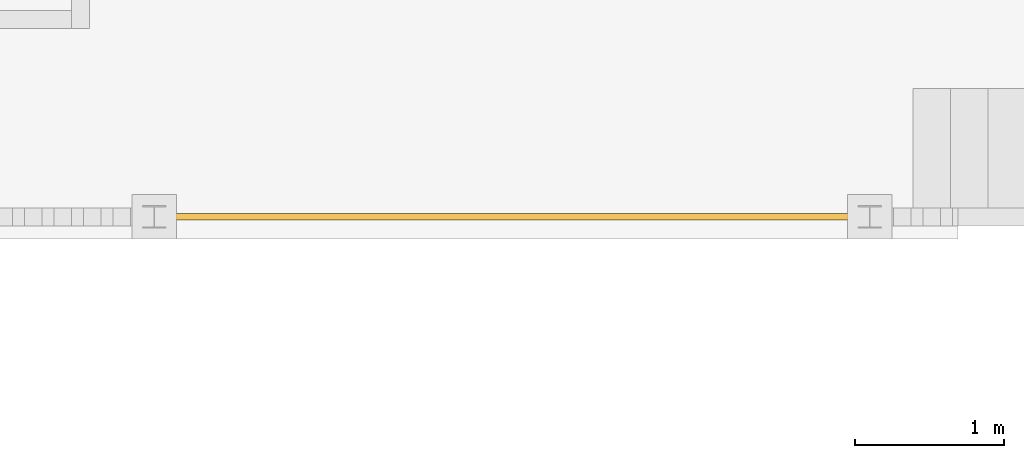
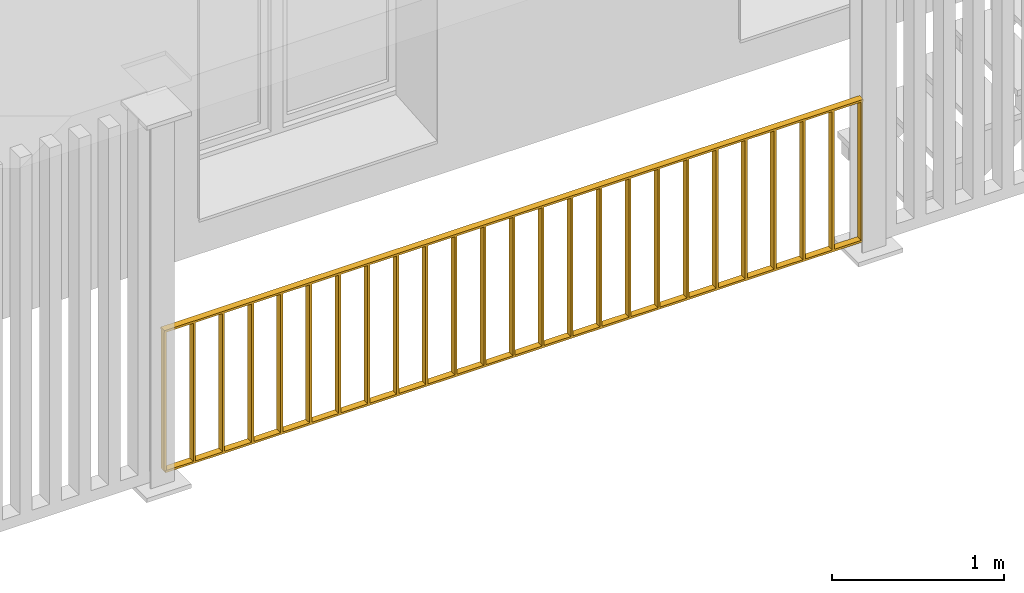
# One storey, part 24 of 34: 1 railing.
"""IFC4 building model written with IfcOpenShell, lengths in millimetres."""

from ifc_helpers import new_model, entity, si_unit, converted_unit, derived_unit, direction, frame, origin_with_axes, place, context, subcontext, project, spatial, polygons, material, constituent, constituent_set, type_object, element, save


model = new_model("IFC4")

# Units and contexts
model_context = context("Model", 3, precision=0.01, world=origin_with_axes(), true_north=direction((0.0, 1.0)))
body_context = subcontext(model_context, "Body", "Model", "MODEL_VIEW")
ifc_project = project(units=[si_unit("LENGTHUNIT", "METRE", prefix="MILLI"), si_unit("AREAUNIT", "SQUARE_METRE"), si_unit("VOLUMEUNIT", "CUBIC_METRE"), converted_unit("PLANEANGLEUNIT", "DEGREE", entity("IfcPlaneAngleMeasure", 0.0174532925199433), si_unit("PLANEANGLEUNIT", "RADIAN"), dimensions=[0, 0, 0, 0, 0, 0, 0]), converted_unit("TIMEUNIT", "Year", entity("IfcTimeMeasure", 31557600.0), si_unit("TIMEUNIT", "SECOND"), dimensions=[0, 0, 1, 0, 0, 0, 0]), si_unit("MASSUNIT", "GRAM", prefix="KILO"), si_unit("THERMODYNAMICTEMPERATUREUNIT", "DEGREE_CELSIUS"), si_unit("LUMINOUSINTENSITYUNIT", "LUMEN"), si_unit("ENERGYUNIT", "JOULE", prefix="MEGA"), derived_unit("THERMALCONDUCTANCEUNIT", [(si_unit("POWERUNIT", "WATT"), 1), (si_unit("LENGTHUNIT", "METRE"), -1), (si_unit("THERMODYNAMICTEMPERATUREUNIT", "KELVIN"), -1)]), derived_unit("SPECIFICHEATCAPACITYUNIT", [(si_unit("ENERGYUNIT", "JOULE"), 1), (si_unit("MASSUNIT", "GRAM", prefix="KILO"), -1), (si_unit("THERMODYNAMICTEMPERATUREUNIT", "KELVIN"), -1)]), derived_unit("MASSDENSITYUNIT", [(si_unit("MASSUNIT", "GRAM", prefix="KILO"), 1), (si_unit("VOLUMEUNIT", "CUBIC_METRE"), -1)])], contexts=[model_context])

# Site, building, storey
site_placement = place(None, origin_with_axes())
site = spatial("IfcSite", under=ifc_project, at=site_placement, Name="Gelände", CompositionType="ELEMENT")
building_placement = place(site_placement, origin_with_axes())
building = spatial("IfcBuilding", under=site, at=building_placement, Name="Gebäude", CompositionType="ELEMENT")
storey_placement = place(building_placement, frame((0.0, 0.0, 2900.0), z_axis=(0.0, 0.0, 1.0), x_axis=(1.0, 0.0, 0.0)))
storey = spatial("IfcBuildingStorey", under=building, at=storey_placement, Name="1.OG", CompositionType="ELEMENT", Elevation=2900.0)

# Railing
ifc_material = material(Name="Stahl")
ifc_constituent_1 = constituent(ifc_material, Name="Stahl 1")
ifc_constituent_2 = constituent(ifc_material, Name="Stahl 2")
ifc_constituent_3 = constituent(ifc_material, Name="Stahl 3")
ifc_constituent_4 = constituent(ifc_material, Name="Stahl 4")
ifc_constituent_5 = constituent(ifc_material, Name="Stahl 5")
ifc_constituent_6 = constituent(ifc_material, Name="Stahl 6")
ifc_constituent_7 = constituent(ifc_material, Name="Stahl 7")
ifc_constituent_8 = constituent(ifc_material, Name="Stahl 8")
ifc_constituent_9 = constituent(ifc_material, Name="Stahl 9")
ifc_constituent_10 = constituent(ifc_material, Name="Stahl 10")
ifc_constituent_11 = constituent(ifc_material, Name="Stahl 11")
ifc_constituent_12 = constituent(ifc_material, Name="Stahl 12")
ifc_constituent_13 = constituent(ifc_material, Name="Stahl 13")
ifc_constituent_14 = constituent(ifc_material, Name="Stahl 14")
ifc_constituent_15 = constituent(ifc_material, Name="Stahl 15")
ifc_constituent_16 = constituent(ifc_material, Name="Stahl 16")
ifc_constituent_17 = constituent(ifc_material, Name="Stahl 17")
ifc_constituent_18 = constituent(ifc_material, Name="Stahl 18")
ifc_constituent_19 = constituent(ifc_material, Name="Stahl 19")
ifc_constituent_20 = constituent(ifc_material, Name="Stahl 20")
ifc_constituent_21 = constituent(ifc_material, Name="Stahl 21")
ifc_constituent_22 = constituent(ifc_material, Name="Stahl 22")
ifc_constituent_23 = constituent(ifc_material, Name="Stahl 23")
ifc_constituent_24 = constituent(ifc_material, Name="Stahl 24")
ifc_constituent_25 = constituent(ifc_material, Name="Stahl 25")
ifc_constituent_26 = constituent(ifc_material, Name="Stahl 26")
ifc_constituent_27 = constituent(ifc_material, Name="Stahl 27")
ifc_constituent_28 = constituent(ifc_material, Name="Stahl 28")
ifc_constituent_29 = constituent(ifc_material, Name="Stahl 29")
ifc_constituent_set = constituent_set(constituents=[ifc_constituent_1, ifc_constituent_2, ifc_constituent_3, ifc_constituent_4, ifc_constituent_5, ifc_constituent_6, ifc_constituent_7, ifc_constituent_8, ifc_constituent_9, ifc_constituent_10, ifc_constituent_11, ifc_constituent_12, ifc_constituent_13, ifc_constituent_14, ifc_constituent_15, ifc_constituent_16, ifc_constituent_17, ifc_constituent_18, ifc_constituent_19, ifc_constituent_20, ifc_constituent_21, ifc_constituent_22, ifc_constituent_23, ifc_constituent_24, ifc_constituent_25, ifc_constituent_26, ifc_constituent_27, ifc_constituent_28, ifc_constituent_29])
railing_type = type_object("IfcRailingType", Name="Geländerart", PredefinedType="NOTDEFINED")
railing_placement = place(storey_placement, frame((-3814.263643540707, 21097.59674077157, 49.99994801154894), z_axis=(0.0, 0.0, 1.0), x_axis=(1.0, 0.0, 0.0)))
element("IfcRailing", 1, at=railing_placement, inside=storey, type_object=railing_type, material=ifc_constituent_set, Name="Geländer-003", PredefinedType="NOTDEFINED", context=body_context, shape_type="Tessellation", body=[
    polygons([(196.5594620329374, -19.99999999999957, 0.0), (196.5594620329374, 19.99999999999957, 0.0), (196.5594620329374, 19.99999999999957, 1000.0), (196.5594620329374, -19.99999999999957, 1000.0), (181.5594620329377, -19.99999999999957, 0.0), (181.5594620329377, 19.99999999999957, 0.0), (181.5594620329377, 19.99999999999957, 1000.0), (181.5594620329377, -19.99999999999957, 1000.0)], [[[1, 2, 3, 4]], [[1, 5, 6, 2]], [[2, 6, 7, 3]], [[4, 3, 7, 8]], [[5, 1, 4, 8]], [[6, 5, 8, 7]]], closed=True),
    polygons([(189.0594620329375, 22.50000000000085, 1000.0), (189.0594620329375, 22.50000000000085, 984.9999999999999), (181.5594620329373, 22.50000000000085, 984.9999999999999), (181.5594620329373, 22.50000000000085, 1000.0), (189.0594620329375, -22.50000000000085, 1000.0), (189.0594620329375, -22.50000000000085, 984.9999999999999), (181.5594620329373, -22.50000000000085, 984.9999999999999), (181.5594620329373, -22.50000000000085, 1000.0)], [[[1, 2, 3, 4]], [[1, 5, 6, 2]], [[2, 6, 7, 3]], [[4, 3, 7, 8]], [[5, 1, 4, 8]], [[6, 5, 8, 7]]], closed=True),
    polygons([(4887.359462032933, -19.99999999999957, 0.0), (4887.359462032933, 19.99999999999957, 0.0), (4887.359462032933, 19.99999999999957, 1000.0), (4887.359462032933, -19.99999999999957, 1000.0), (4872.359462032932, -19.99999999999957, 0.0), (4872.359462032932, 19.99999999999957, 0.0), (4872.359462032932, 19.99999999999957, 1000.0), (4872.359462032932, -19.99999999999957, 1000.0)], [[[1, 2, 3, 4]], [[1, 5, 6, 2]], [[2, 6, 7, 3]], [[4, 3, 7, 8]], [[5, 1, 4, 8]], [[6, 5, 8, 7]]], closed=True),
    polygons([(4879.859462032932, -22.50000000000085, 1000.0), (4879.859462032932, -22.50000000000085, 984.9999999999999), (4887.359462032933, -22.50000000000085, 984.9999999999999), (4887.359462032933, -22.50000000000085, 1000.0), (4879.859462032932, 22.50000000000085, 1000.0), (4879.859462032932, 22.50000000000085, 984.9999999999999), (4887.359462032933, 22.50000000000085, 984.9999999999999), (4887.359462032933, 22.50000000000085, 1000.0)], [[[1, 2, 3, 4]], [[1, 5, 6, 2]], [[2, 6, 7, 3]], [[4, 3, 7, 8]], [[5, 1, 4, 8]], [[6, 5, 8, 7]]], closed=True),
    polygons([(189.0594620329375, -22.50000000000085, 0.9999999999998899), (189.0594620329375, -22.50000000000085, -14.00000000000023), (4879.859462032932, -22.50000000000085, -14.00000000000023), (4879.859462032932, -22.50000000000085, 0.9999999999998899), (189.0594620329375, 22.50000000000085, 0.9999999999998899), (189.0594620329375, 22.50000000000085, -14.00000000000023), (4879.859462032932, 22.50000000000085, -14.00000000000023), (4879.859462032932, 22.50000000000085, 0.9999999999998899)], [[[1, 2, 3, 4]], [[1, 5, 6, 2]], [[2, 6, 7, 3]], [[4, 3, 7, 8]], [[5, 1, 4, 8]], [[6, 5, 8, 7]]], closed=True),
    polygons([(189.0594620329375, -22.50000000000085, 1000.0), (189.0594620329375, -22.50000000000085, 984.9999999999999), (4879.859462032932, -22.50000000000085, 984.9999999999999), (4879.859462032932, -22.50000000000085, 1000.0), (189.0594620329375, 22.50000000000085, 1000.0), (189.0594620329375, 22.50000000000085, 984.9999999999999), (4879.859462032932, 22.50000000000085, 984.9999999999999), (4879.859462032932, 22.50000000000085, 1000.0)], [[[1, 2, 3, 4]], [[1, 5, 6, 2]], [[2, 6, 7, 3]], [[4, 3, 7, 8]], [[5, 1, 4, 8]], [[6, 5, 8, 7]]], closed=True),
    polygons([(392.0094620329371, -22.50000000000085, 0.0), (392.0094620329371, 22.50000000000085, 0.0), (392.0094620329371, 22.50000000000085, 985.2293691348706), (392.0094620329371, -22.50000000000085, 985.2293691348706), (377.0094620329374, -22.50000000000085, 0.0), (377.0094620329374, 22.50000000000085, 0.0), (377.0094620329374, 22.50000000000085, 985.2293691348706), (377.0094620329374, -22.50000000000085, 985.2293691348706)], [[[1, 2, 3, 4]], [[1, 5, 6, 2]], [[2, 6, 7, 3]], [[4, 3, 7, 8]], [[5, 1, 4, 8]], [[6, 5, 8, 7]]], closed=True),
    polygons([(587.4594620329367, -22.50000000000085, 0.0), (587.4594620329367, 22.50000000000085, 0.0), (587.4594620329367, 22.50000000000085, 985.2293691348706), (587.4594620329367, -22.50000000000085, 985.2293691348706), (572.459462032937, -22.50000000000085, 0.0), (572.459462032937, 22.50000000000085, 0.0), (572.459462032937, 22.50000000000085, 985.2293691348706), (572.459462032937, -22.50000000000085, 985.2293691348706)], [[[1, 2, 3, 4]], [[1, 5, 6, 2]], [[2, 6, 7, 3]], [[4, 3, 7, 8]], [[5, 1, 4, 8]], [[6, 5, 8, 7]]], closed=True),
    polygons([(782.9094620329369, -22.50000000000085, 0.0), (782.9094620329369, 22.50000000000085, 0.0), (782.9094620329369, 22.50000000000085, 985.2293691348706), (782.9094620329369, -22.50000000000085, 985.2293691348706), (767.9094620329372, -22.50000000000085, 0.0), (767.9094620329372, 22.50000000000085, 0.0), (767.9094620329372, 22.50000000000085, 985.2293691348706), (767.9094620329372, -22.50000000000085, 985.2293691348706)], [[[1, 2, 3, 4]], [[1, 5, 6, 2]], [[2, 6, 7, 3]], [[4, 3, 7, 8]], [[5, 1, 4, 8]], [[6, 5, 8, 7]]], closed=True),
    polygons([(978.3594620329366, -22.50000000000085, 0.0), (978.3594620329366, 22.50000000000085, 0.0), (978.3594620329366, 22.50000000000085, 985.2293691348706), (978.3594620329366, -22.50000000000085, 985.2293691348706), (963.3594620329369, -22.50000000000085, 0.0), (963.3594620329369, 22.50000000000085, 0.0), (963.3594620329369, 22.50000000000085, 985.2293691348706), (963.3594620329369, -22.50000000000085, 985.2293691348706)], [[[1, 2, 3, 4]], [[1, 5, 6, 2]], [[2, 6, 7, 3]], [[4, 3, 7, 8]], [[5, 1, 4, 8]], [[6, 5, 8, 7]]], closed=True),
    polygons([(1173.809462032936, -22.50000000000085, 0.0), (1173.809462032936, 22.50000000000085, 0.0), (1173.809462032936, 22.50000000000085, 985.2293691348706), (1173.809462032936, -22.50000000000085, 985.2293691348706), (1158.809462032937, -22.50000000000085, 0.0), (1158.809462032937, 22.50000000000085, 0.0), (1158.809462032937, 22.50000000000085, 985.2293691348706), (1158.809462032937, -22.50000000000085, 985.2293691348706)], [[[1, 2, 3, 4]], [[1, 5, 6, 2]], [[2, 6, 7, 3]], [[4, 3, 7, 8]], [[5, 1, 4, 8]], [[6, 5, 8, 7]]], closed=True),
    polygons([(1369.259462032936, -22.50000000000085, 0.0), (1369.259462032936, 22.50000000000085, 0.0), (1369.259462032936, 22.50000000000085, 985.2293691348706), (1369.259462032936, -22.50000000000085, 985.2293691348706), (1354.259462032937, -22.50000000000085, 0.0), (1354.259462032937, 22.50000000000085, 0.0), (1354.259462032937, 22.50000000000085, 985.2293691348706), (1354.259462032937, -22.50000000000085, 985.2293691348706)], [[[1, 2, 3, 4]], [[1, 5, 6, 2]], [[2, 6, 7, 3]], [[4, 3, 7, 8]], [[5, 1, 4, 8]], [[6, 5, 8, 7]]], closed=True),
    polygons([(1564.709462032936, -22.50000000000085, 0.0), (1564.709462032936, 22.50000000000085, 0.0), (1564.709462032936, 22.50000000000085, 985.2293691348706), (1564.709462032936, -22.50000000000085, 985.2293691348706), (1549.709462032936, -22.50000000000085, 0.0), (1549.709462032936, 22.50000000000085, 0.0), (1549.709462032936, 22.50000000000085, 985.2293691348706), (1549.709462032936, -22.50000000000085, 985.2293691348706)], [[[1, 2, 3, 4]], [[1, 5, 6, 2]], [[2, 6, 7, 3]], [[4, 3, 7, 8]], [[5, 1, 4, 8]], [[6, 5, 8, 7]]], closed=True),
    polygons([(1760.159462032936, -22.50000000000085, 0.0), (1760.159462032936, 22.50000000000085, 0.0), (1760.159462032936, 22.50000000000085, 985.2293691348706), (1760.159462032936, -22.50000000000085, 985.2293691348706), (1745.159462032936, -22.50000000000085, 0.0), (1745.159462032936, 22.50000000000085, 0.0), (1745.159462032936, 22.50000000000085, 985.2293691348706), (1745.159462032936, -22.50000000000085, 985.2293691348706)], [[[1, 2, 3, 4]], [[1, 5, 6, 2]], [[2, 6, 7, 3]], [[4, 3, 7, 8]], [[5, 1, 4, 8]], [[6, 5, 8, 7]]], closed=True),
    polygons([(1955.609462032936, -22.50000000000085, 0.0), (1955.609462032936, 22.50000000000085, 0.0), (1955.609462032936, 22.50000000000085, 985.2293691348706), (1955.609462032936, -22.50000000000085, 985.2293691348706), (1940.609462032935, -22.50000000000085, 0.0), (1940.609462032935, 22.50000000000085, 0.0), (1940.609462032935, 22.50000000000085, 985.2293691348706), (1940.609462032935, -22.50000000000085, 985.2293691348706)], [[[1, 2, 3, 4]], [[1, 5, 6, 2]], [[2, 6, 7, 3]], [[4, 3, 7, 8]], [[5, 1, 4, 8]], [[6, 5, 8, 7]]], closed=True),
    polygons([(2151.059462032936, -22.50000000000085, 0.0), (2151.059462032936, 22.50000000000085, 0.0), (2151.059462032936, 22.50000000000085, 985.2293691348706), (2151.059462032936, -22.50000000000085, 985.2293691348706), (2136.059462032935, -22.50000000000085, 0.0), (2136.059462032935, 22.50000000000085, 0.0), (2136.059462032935, 22.50000000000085, 985.2293691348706), (2136.059462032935, -22.50000000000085, 985.2293691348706)], [[[1, 2, 3, 4]], [[1, 5, 6, 2]], [[2, 6, 7, 3]], [[4, 3, 7, 8]], [[5, 1, 4, 8]], [[6, 5, 8, 7]]], closed=True),
    polygons([(2346.509462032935, -22.50000000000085, 0.0), (2346.509462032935, 22.50000000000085, 0.0), (2346.509462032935, 22.50000000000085, 985.2293691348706), (2346.509462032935, -22.50000000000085, 985.2293691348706), (2331.509462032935, -22.50000000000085, 0.0), (2331.509462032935, 22.50000000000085, 0.0), (2331.509462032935, 22.50000000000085, 985.2293691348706), (2331.509462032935, -22.50000000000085, 985.2293691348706)], [[[1, 2, 3, 4]], [[1, 5, 6, 2]], [[2, 6, 7, 3]], [[4, 3, 7, 8]], [[5, 1, 4, 8]], [[6, 5, 8, 7]]], closed=True),
    polygons([(2541.959462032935, -22.50000000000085, 0.0), (2541.959462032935, 22.50000000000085, 0.0), (2541.959462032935, 22.50000000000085, 985.2293691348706), (2541.959462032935, -22.50000000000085, 985.2293691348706), (2526.959462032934, -22.50000000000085, 0.0), (2526.959462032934, 22.50000000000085, 0.0), (2526.959462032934, 22.50000000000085, 985.2293691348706), (2526.959462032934, -22.50000000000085, 985.2293691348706)], [[[1, 2, 3, 4]], [[1, 5, 6, 2]], [[2, 6, 7, 3]], [[4, 3, 7, 8]], [[5, 1, 4, 8]], [[6, 5, 8, 7]]], closed=True),
    polygons([(2737.409462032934, -22.50000000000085, 0.0), (2737.409462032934, 22.50000000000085, 0.0), (2737.409462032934, 22.50000000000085, 985.2293691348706), (2737.409462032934, -22.50000000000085, 985.2293691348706), (2722.409462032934, -22.50000000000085, 0.0), (2722.409462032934, 22.50000000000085, 0.0), (2722.409462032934, 22.50000000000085, 985.2293691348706), (2722.409462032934, -22.50000000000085, 985.2293691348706)], [[[1, 2, 3, 4]], [[1, 5, 6, 2]], [[2, 6, 7, 3]], [[4, 3, 7, 8]], [[5, 1, 4, 8]], [[6, 5, 8, 7]]], closed=True),
    polygons([(2932.859462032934, -22.50000000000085, 0.0), (2932.859462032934, 22.50000000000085, 0.0), (2932.859462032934, 22.50000000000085, 985.2293691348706), (2932.859462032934, -22.50000000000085, 985.2293691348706), (2917.859462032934, -22.50000000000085, 0.0), (2917.859462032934, 22.50000000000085, 0.0), (2917.859462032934, 22.50000000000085, 985.2293691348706), (2917.859462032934, -22.50000000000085, 985.2293691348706)], [[[1, 2, 3, 4]], [[1, 5, 6, 2]], [[2, 6, 7, 3]], [[4, 3, 7, 8]], [[5, 1, 4, 8]], [[6, 5, 8, 7]]], closed=True),
    polygons([(3128.309462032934, -22.50000000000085, 0.0), (3128.309462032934, 22.50000000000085, 0.0), (3128.309462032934, 22.50000000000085, 985.2293691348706), (3128.309462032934, -22.50000000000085, 985.2293691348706), (3113.309462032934, -22.50000000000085, 0.0), (3113.309462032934, 22.50000000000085, 0.0), (3113.309462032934, 22.50000000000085, 985.2293691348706), (3113.309462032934, -22.50000000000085, 985.2293691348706)], [[[1, 2, 3, 4]], [[1, 5, 6, 2]], [[2, 6, 7, 3]], [[4, 3, 7, 8]], [[5, 1, 4, 8]], [[6, 5, 8, 7]]], closed=True),
    polygons([(3323.759462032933, -22.50000000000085, 0.0), (3323.759462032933, 22.50000000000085, 0.0), (3323.759462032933, 22.50000000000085, 985.2293691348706), (3323.759462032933, -22.50000000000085, 985.2293691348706), (3308.759462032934, -22.50000000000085, 0.0), (3308.759462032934, 22.50000000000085, 0.0), (3308.759462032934, 22.50000000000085, 985.2293691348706), (3308.759462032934, -22.50000000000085, 985.2293691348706)], [[[1, 2, 3, 4]], [[1, 5, 6, 2]], [[2, 6, 7, 3]], [[4, 3, 7, 8]], [[5, 1, 4, 8]], [[6, 5, 8, 7]]], closed=True),
    polygons([(3519.209462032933, -22.50000000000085, 0.0), (3519.209462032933, 22.50000000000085, 0.0), (3519.209462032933, 22.50000000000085, 985.2293691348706), (3519.209462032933, -22.50000000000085, 985.2293691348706), (3504.209462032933, -22.50000000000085, 0.0), (3504.209462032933, 22.50000000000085, 0.0), (3504.209462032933, 22.50000000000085, 985.2293691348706), (3504.209462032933, -22.50000000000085, 985.2293691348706)], [[[1, 2, 3, 4]], [[1, 5, 6, 2]], [[2, 6, 7, 3]], [[4, 3, 7, 8]], [[5, 1, 4, 8]], [[6, 5, 8, 7]]], closed=True),
    polygons([(3714.659462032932, -22.50000000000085, 0.0), (3714.659462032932, 22.50000000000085, 0.0), (3714.659462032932, 22.50000000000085, 985.2293691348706), (3714.659462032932, -22.50000000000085, 985.2293691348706), (3699.659462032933, -22.50000000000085, 0.0), (3699.659462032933, 22.50000000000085, 0.0), (3699.659462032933, 22.50000000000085, 985.2293691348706), (3699.659462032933, -22.50000000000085, 985.2293691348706)], [[[1, 2, 3, 4]], [[1, 5, 6, 2]], [[2, 6, 7, 3]], [[4, 3, 7, 8]], [[5, 1, 4, 8]], [[6, 5, 8, 7]]], closed=True),
    polygons([(3910.109462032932, -22.50000000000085, 0.0), (3910.109462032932, 22.50000000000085, 0.0), (3910.109462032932, 22.50000000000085, 985.2293691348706), (3910.109462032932, -22.50000000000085, 985.2293691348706), (3895.109462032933, -22.50000000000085, 0.0), (3895.109462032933, 22.50000000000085, 0.0), (3895.109462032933, 22.50000000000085, 985.2293691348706), (3895.109462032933, -22.50000000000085, 985.2293691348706)], [[[1, 2, 3, 4]], [[1, 5, 6, 2]], [[2, 6, 7, 3]], [[4, 3, 7, 8]], [[5, 1, 4, 8]], [[6, 5, 8, 7]]], closed=True),
    polygons([(4105.559462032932, -22.50000000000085, 0.0), (4105.559462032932, 22.50000000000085, 0.0), (4105.559462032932, 22.50000000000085, 985.2293691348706), (4105.559462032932, -22.50000000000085, 985.2293691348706), (4090.559462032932, -22.50000000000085, 0.0), (4090.559462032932, 22.50000000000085, 0.0), (4090.559462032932, 22.50000000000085, 985.2293691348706), (4090.559462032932, -22.50000000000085, 985.2293691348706)], [[[1, 2, 3, 4]], [[1, 5, 6, 2]], [[2, 6, 7, 3]], [[4, 3, 7, 8]], [[5, 1, 4, 8]], [[6, 5, 8, 7]]], closed=True),
    polygons([(4301.009462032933, -22.50000000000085, 0.0), (4301.009462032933, 22.50000000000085, 0.0), (4301.009462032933, 22.50000000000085, 985.2293691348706), (4301.009462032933, -22.50000000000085, 985.2293691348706), (4286.009462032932, -22.50000000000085, 0.0), (4286.009462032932, 22.50000000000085, 0.0), (4286.009462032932, 22.50000000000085, 985.2293691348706), (4286.009462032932, -22.50000000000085, 985.2293691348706)], [[[1, 2, 3, 4]], [[1, 5, 6, 2]], [[2, 6, 7, 3]], [[4, 3, 7, 8]], [[5, 1, 4, 8]], [[6, 5, 8, 7]]], closed=True),
    polygons([(4496.459462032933, -22.50000000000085, 0.0), (4496.459462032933, 22.50000000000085, 0.0), (4496.459462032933, 22.50000000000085, 985.2293691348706), (4496.459462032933, -22.50000000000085, 985.2293691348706), (4481.459462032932, -22.50000000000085, 0.0), (4481.459462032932, 22.50000000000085, 0.0), (4481.459462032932, 22.50000000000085, 985.2293691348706), (4481.459462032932, -22.50000000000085, 985.2293691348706)], [[[1, 2, 3, 4]], [[1, 5, 6, 2]], [[2, 6, 7, 3]], [[4, 3, 7, 8]], [[5, 1, 4, 8]], [[6, 5, 8, 7]]], closed=True),
    polygons([(4691.909462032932, -22.50000000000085, 0.0), (4691.909462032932, 22.50000000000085, 0.0), (4691.909462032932, 22.50000000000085, 985.2293691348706), (4691.909462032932, -22.50000000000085, 985.2293691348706), (4676.909462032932, -22.50000000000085, 0.0), (4676.909462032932, 22.50000000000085, 0.0), (4676.909462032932, 22.50000000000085, 985.2293691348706), (4676.909462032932, -22.50000000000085, 985.2293691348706)], [[[1, 2, 3, 4]], [[1, 5, 6, 2]], [[2, 6, 7, 3]], [[4, 3, 7, 8]], [[5, 1, 4, 8]], [[6, 5, 8, 7]]], closed=True),
])

save(model, "model.ifc")
